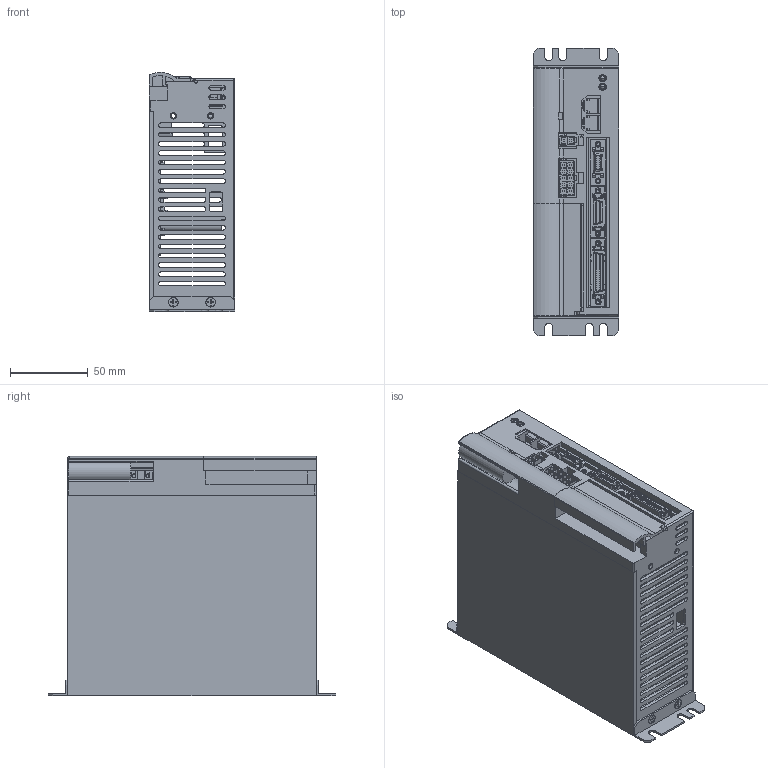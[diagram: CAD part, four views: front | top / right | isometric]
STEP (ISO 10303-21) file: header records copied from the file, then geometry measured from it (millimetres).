
FILE_DESCRIPTION( (''), '2;1');
FILE_NAME ('CA25-M10-_XC_3D.stp','2016-05-25T10:59:03',(''),(''),'spGate 11.3.10','spGate','');
FILE_SCHEMA (('AUTOMOTIVE_DESIGN'));
Length unit declared in the file: millimetre
Products named in the file (220): Assembly; CA25-M10-_XC_3D-prt0; CA25-M10-_XC_3D-prt1; CA25-M10-_XC_3D-prt2; CA25-M10-_XC_3D-prt3; CA25-M10-_XC_3D-prt4; CA25-M10-_XC_3D-prt5; CA25-M10-_XC_3D-prt6; CA25-M10-_XC_3D-prt7; CA25-M10-_XC_3D-prt8; CA25-M10-_XC_3D-prt9; CA25-M10-_XC_3D-prt10; CA25-M10-_XC_3D-prt11; CA25-M10-_XC_3D-prt12; CA25-M10-_XC_3D-prt13; CA25-M10-_XC_3D-prt14; CA25-M10-_XC_3D-prt15; CA25-M10-_XC_3D-prt16; CA25-M10-_XC_3D-prt17; CA25-M10-_XC_3D-prt18; CA25-M10-_XC_3D-prt19; CA25-M10-_XC_3D-prt20; CA25-M10-_XC_3D-prt21; CA25-M10-_XC_3D-prt22; CA25-M10-_XC_3D-prt23; CA25-M10-_XC_3D-prt24; CA25-M10-_XC_3D-prt25; CA25-M10-_XC_3D-prt26; CA25-M10-_XC_3D-prt27; CA25-M10-_XC_3D-prt28; CA25-M10-_XC_3D-prt29; CA25-M10-_XC_3D-prt30; CA25-M10-_XC_3D-prt31; CA25-M10-_XC_3D-prt32; CA25-M10-_XC_3D-prt33; CA25-M10-_XC_3D-prt34; CA25-M10-_XC_3D-prt35; CA25-M10-_XC_3D-prt36; CA25-M10-_XC_3D-prt37; CA25-M10-_XC_3D-prt38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
Assembly tree (219 placements, depth 2):
  Assembly
    CA25-M10-_XC_3D-prt0
    CA25-M10-_XC_3D-prt1
    CA25-M10-_XC_3D-prt2
    CA25-M10-_XC_3D-prt3
    CA25-M10-_XC_3D-prt4
    CA25-M10-_XC_3D-prt5
    CA25-M10-_XC_3D-prt6
    CA25-M10-_XC_3D-prt7
    CA25-M10-_XC_3D-prt8
    CA25-M10-_XC_3D-prt9
    CA25-M10-_XC_3D-prt10
    CA25-M10-_XC_3D-prt11
    CA25-M10-_XC_3D-prt12
    CA25-M10-_XC_3D-prt13
    CA25-M10-_XC_3D-prt14
    CA25-M10-_XC_3D-prt15
    CA25-M10-_XC_3D-prt16
    CA25-M10-_XC_3D-prt17
    CA25-M10-_XC_3D-prt18
    CA25-M10-_XC_3D-prt19
    CA25-M10-_XC_3D-prt20
    CA25-M10-_XC_3D-prt21
    CA25-M10-_XC_3D-prt22
    CA25-M10-_XC_3D-prt23
    CA25-M10-_XC_3D-prt24
    CA25-M10-_XC_3D-prt25
    CA25-M10-_XC_3D-prt26
    CA25-M10-_XC_3D-prt27
    CA25-M10-_XC_3D-prt28
    CA25-M10-_XC_3D-prt29
    CA25-M10-_XC_3D-prt30
    CA25-M10-_XC_3D-prt31
    CA25-M10-_XC_3D-prt32
    CA25-M10-_XC_3D-prt33
    CA25-M10-_XC_3D-prt34
    CA25-M10-_XC_3D-prt35
    CA25-M10-_XC_3D-prt36
    CA25-M10-_XC_3D-prt37
    CA25-M10-_XC_3D-prt38
    CA25-M10-_XC_3D-prt39
    CA25-M10-_XC_3D-prt40
    CA25-M10-_XC_3D-prt41
    CA25-M10-_XC_3D-prt42
    CA25-M10-_XC_3D-prt43
    CA25-M10-_XC_3D-prt44
    CA25-M10-_XC_3D-prt45
    CA25-M10-_XC_3D-prt46
    CA25-M10-_XC_3D-prt47
    CA25-M10-_XC_3D-prt48
    CA25-M10-_XC_3D-prt49
    CA25-M10-_XC_3D-prt50
    CA25-M10-_XC_3D-prt51
    CA25-M10-_XC_3D-prt52
    CA25-M10-_XC_3D-prt53
    CA25-M10-_XC_3D-prt54
    CA25-M10-_XC_3D-prt55
    CA25-M10-_XC_3D-prt56
    CA25-M10-_XC_3D-prt57
    CA25-M10-_XC_3D-prt58
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Bounding box: 55 x 185 x 153.99 mm (x, y, z)
Volume: 222311 mm3; surface area: 214482.1 mm2
Topology: 45 solids, 47 shells, 3924 faces, 10991 edges, 7524 vertices
Faces by surface type: plane 3081, cylinder 735, bspline 96, sphere 12
Entity records: 222055 total; most frequent: CARTESIAN_POINT 29889, ORIENTED_EDGE 21576, DIRECTION 20386, COLOUR_RGB 14936, PRESENTATION_STYLE_ASSIGNMENT 14936, STYLED_ITEM 14936, DRAUGHTING_PRE_DEFINED_CURVE_FONT 10965, CURVE_STYLE 10965
